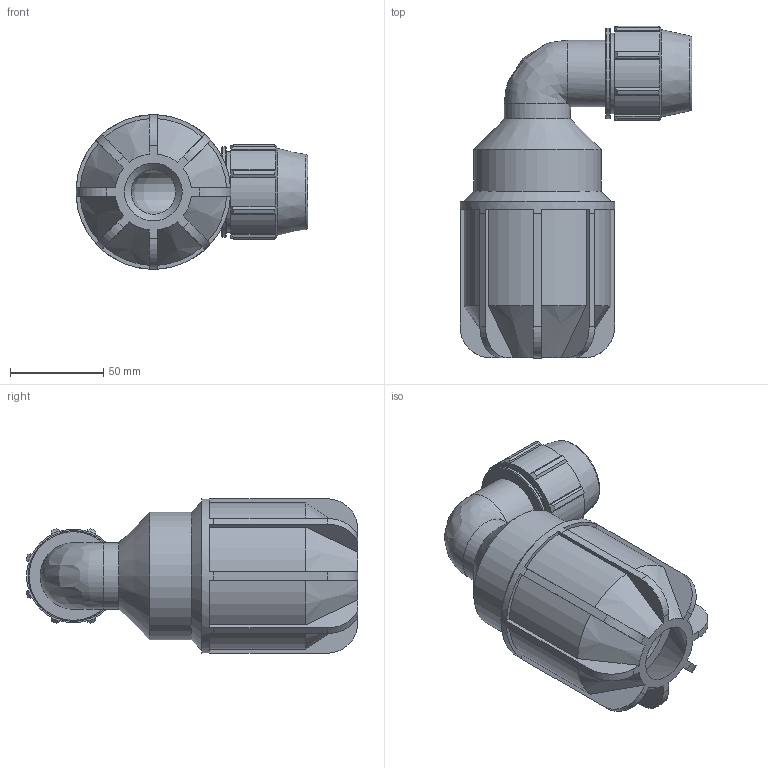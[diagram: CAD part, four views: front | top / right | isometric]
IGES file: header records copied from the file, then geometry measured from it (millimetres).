
Global section: file name: 070570M07035.ipt; native system: Autodesk Inventor 2019; preprocessor: unknown; author: KIM; date: 20210826.124559; units: inch
Bounding box: 124.59 x 178.36 x 83.06 mm (x, y, z)
Volume: 306953.3 mm3; surface area: 87544.2 mm2
Topology: 1 solids, 1 shells, 160 faces, 453 edges, 299 vertices
Faces by surface type: plane 88, cylinder 38, cone 20, revolution 13, bspline 1
Full cylindrical faces by diameter (mm): 35.686 x2, 43.282 x1, 48.692 x1, 68.544 x1, 83.058 x1
